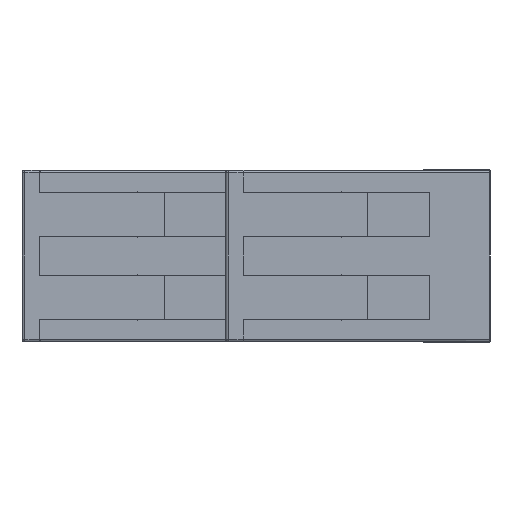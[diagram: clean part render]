
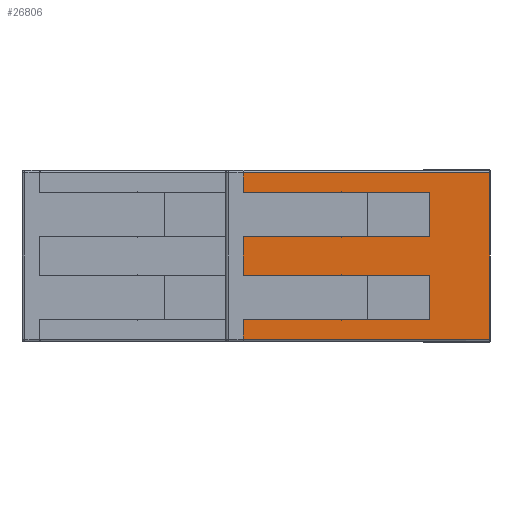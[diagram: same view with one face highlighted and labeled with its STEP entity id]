
A CAD part, left-side view. The second image highlights one B-rep face of the part: STEP entity #26806.
In plain terms, the highlighted planar face has unit normal (-1, 0, 0).
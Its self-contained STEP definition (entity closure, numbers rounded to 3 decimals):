
#58 = DIRECTION ( 'NONE',  ( 0., 0., 1. ) ) ;
#330 = LINE ( 'NONE', #11156, #16790 ) ;
#522 = VERTEX_POINT ( 'NONE', #15512 ) ;
#720 = VERTEX_POINT ( 'NONE', #21715 ) ;
#1124 = LINE ( 'NONE', #3722, #11843 ) ;
#1205 = LINE ( 'NONE', #2655, #12609 ) ;
#1285 = EDGE_CURVE ( 'NONE', #8899, #16350, #14881, .T. ) ;
#1503 = VECTOR ( 'NONE', #18366, 1000. ) ;
#1678 = DIRECTION ( 'NONE',  ( 0., 0., 1. ) ) ;
#1727 = CARTESIAN_POINT ( 'NONE',  ( -38.252, 2.438, 13.608 ) ) ;
#1740 = EDGE_CURVE ( 'NONE', #13068, #22184, #4113, .T. ) ;
#1823 = LINE ( 'NONE', #24999, #24600 ) ;
#1937 = ORIENTED_EDGE ( 'NONE', *, *, #25907, .T. ) ;
#2278 = ORIENTED_EDGE ( 'NONE', *, *, #6004, .F. ) ;
#2299 = EDGE_CURVE ( 'NONE', #10054, #3017, #2742, .T. ) ;
#2655 = CARTESIAN_POINT ( 'NONE',  ( -38.252, -6.462, 4.058 ) ) ;
#2742 = LINE ( 'NONE', #22765, #9760 ) ;
#2903 = EDGE_CURVE ( 'NONE', #19982, #26915, #16485, .T. ) ;
#3017 = VERTEX_POINT ( 'NONE', #10625 ) ;
#3576 = LINE ( 'NONE', #10317, #4247 ) ;
#3638 = EDGE_CURVE ( 'NONE', #3017, #19982, #330, .T. ) ;
#3722 = CARTESIAN_POINT ( 'NONE',  ( -38.252, -14.462, 7.558 ) ) ;
#4113 = LINE ( 'NONE', #18278, #26202 ) ;
#4139 = VECTOR ( 'NONE', #24994, 1000. ) ;
#4247 = VECTOR ( 'NONE', #25190, 1000. ) ;
#4292 = EDGE_LOOP ( 'NONE', ( #9809, #20518, #1937, #8171, #25373, #16211, #27414, #10804, #14295, #21508, #2278, #15323, #6875, #22231, #4405, #19398 ) ) ;
#4405 = ORIENTED_EDGE ( 'NONE', *, *, #2903, .T. ) ;
#4499 = CARTESIAN_POINT ( 'NONE',  ( -38.252, -14.462, 4.058 ) ) ;
#4521 = EDGE_CURVE ( 'NONE', #10054, #10845, #20096, .T. ) ;
#4789 = DIRECTION ( 'NONE',  ( 0., 1., 0. ) ) ;
#5057 = VECTOR ( 'NONE', #10352, 1000. ) ;
#5625 = CARTESIAN_POINT ( 'NONE',  ( -38.252, -19.962, 13.608 ) ) ;
#5757 = CARTESIAN_POINT ( 'NONE',  ( -38.252, 2.438, 13.358 ) ) ;
#5878 = DIRECTION ( 'NONE',  ( 0., 1., 0. ) ) ;
#6004 = EDGE_CURVE ( 'NONE', #10845, #6688, #25631, .T. ) ;
#6294 = CARTESIAN_POINT ( 'NONE',  ( -38.252, 2.438, 4.058 ) ) ;
#6347 = AXIS2_PLACEMENT_3D ( 'NONE', #24789, #24976, #12149 ) ;
#6433 = LINE ( 'NONE', #25480, #10782 ) ;
#6688 = VERTEX_POINT ( 'NONE', #20712 ) ;
#6875 = ORIENTED_EDGE ( 'NONE', *, *, #2299, .T. ) ;
#7818 = DIRECTION ( 'NONE',  ( 0., 1., 0. ) ) ;
#8171 = ORIENTED_EDGE ( 'NONE', *, *, #23350, .F. ) ;
#8353 = CARTESIAN_POINT ( 'NONE',  ( -38.252, 2.438, 13.358 ) ) ;
#8899 = VERTEX_POINT ( 'NONE', #22624 ) ;
#9268 = VERTEX_POINT ( 'NONE', #24555 ) ;
#9400 = CARTESIAN_POINT ( 'NONE',  ( -38.252, -14.462, 4.058 ) ) ;
#9760 = VECTOR ( 'NONE', #9901, 1000. ) ;
#9809 = ORIENTED_EDGE ( 'NONE', *, *, #1285, .F. ) ;
#9897 = VECTOR ( 'NONE', #18077, 1000. ) ;
#9901 = DIRECTION ( 'NONE',  ( 0., 1., 0. ) ) ;
#9993 = PLANE ( 'NONE',  #6347 ) ;
#10011 = VERTEX_POINT ( 'NONE', #5757 ) ;
#10017 = DIRECTION ( 'NONE',  ( 0., 1., 0. ) ) ;
#10054 = VERTEX_POINT ( 'NONE', #18803 ) ;
#10317 = CARTESIAN_POINT ( 'NONE',  ( -38.252, -19.962, -1.742 ) ) ;
#10338 = EDGE_CURVE ( 'NONE', #6688, #22208, #1205, .T. ) ;
#10352 = DIRECTION ( 'NONE',  ( 0., 0., -1. ) ) ;
#10625 = CARTESIAN_POINT ( 'NONE',  ( -38.252, -6.462, 0.058 ) ) ;
#10782 = VECTOR ( 'NONE', #19192, 1000. ) ;
#10804 = ORIENTED_EDGE ( 'NONE', *, *, #1740, .T. ) ;
#10845 = VERTEX_POINT ( 'NONE', #4499 ) ;
#11060 = EDGE_CURVE ( 'NONE', #22184, #22208, #12911, .T. ) ;
#11156 = CARTESIAN_POINT ( 'NONE',  ( -38.252, -6.462, 0.058 ) ) ;
#11843 = VECTOR ( 'NONE', #5878, 1000. ) ;
#11908 = CARTESIAN_POINT ( 'NONE',  ( -38.252, -6.462, 11.558 ) ) ;
#12149 = DIRECTION ( 'NONE',  ( 0., 0., 1. ) ) ;
#12609 = VECTOR ( 'NONE', #17667, 1000. ) ;
#12666 = CARTESIAN_POINT ( 'NONE',  ( -38.252, 2.438, 7.558 ) ) ;
#12911 = LINE ( 'NONE', #16217, #1503 ) ;
#13068 = VERTEX_POINT ( 'NONE', #14185 ) ;
#13442 = FACE_OUTER_BOUND ( 'NONE', #4292, .T. ) ;
#13533 = CARTESIAN_POINT ( 'NONE',  ( -38.252, -19.962, -1.742 ) ) ;
#14185 = CARTESIAN_POINT ( 'NONE',  ( -38.252, -6.462, 7.558 ) ) ;
#14295 = ORIENTED_EDGE ( 'NONE', *, *, #11060, .T. ) ;
#14360 = VECTOR ( 'NONE', #58, 1000. ) ;
#14452 = VECTOR ( 'NONE', #25453, 1000. ) ;
#14881 = LINE ( 'NONE', #5625, #4139 ) ;
#15065 = CARTESIAN_POINT ( 'NONE',  ( -38.252, -14.462, 4.058 ) ) ;
#15323 = ORIENTED_EDGE ( 'NONE', *, *, #4521, .F. ) ;
#15512 = CARTESIAN_POINT ( 'NONE',  ( -38.252, -14.462, 7.558 ) ) ;
#16028 = VERTEX_POINT ( 'NONE', #11908 ) ;
#16126 = DIRECTION ( 'NONE',  ( 0., 1., 0. ) ) ;
#16211 = ORIENTED_EDGE ( 'NONE', *, *, #27528, .F. ) ;
#16217 = CARTESIAN_POINT ( 'NONE',  ( -38.252, 2.438, 13.608 ) ) ;
#16350 = VERTEX_POINT ( 'NONE', #13533 ) ;
#16392 = CARTESIAN_POINT ( 'NONE',  ( -38.252, -14.462, 11.558 ) ) ;
#16485 = LINE ( 'NONE', #1727, #5057 ) ;
#16720 = CARTESIAN_POINT ( 'NONE',  ( -38.252, -14.462, 11.558 ) ) ;
#16790 = VECTOR ( 'NONE', #4789, 1000. ) ;
#17574 = VECTOR ( 'NONE', #7818, 1000. ) ;
#17667 = DIRECTION ( 'NONE',  ( 0., 1., 0. ) ) ;
#18077 = DIRECTION ( 'NONE',  ( 0., 1., 0. ) ) ;
#18278 = CARTESIAN_POINT ( 'NONE',  ( -38.252, -6.462, 7.558 ) ) ;
#18366 = DIRECTION ( 'NONE',  ( 0., 0., -1. ) ) ;
#18803 = CARTESIAN_POINT ( 'NONE',  ( -38.252, -14.462, 0.058 ) ) ;
#19192 = DIRECTION ( 'NONE',  ( 0., 0., -1. ) ) ;
#19384 = CARTESIAN_POINT ( 'NONE',  ( -38.252, 2.438, 0.058 ) ) ;
#19398 = ORIENTED_EDGE ( 'NONE', *, *, #22129, .T. ) ;
#19982 = VERTEX_POINT ( 'NONE', #19384 ) ;
#20096 = LINE ( 'NONE', #15065, #14360 ) ;
#20518 = ORIENTED_EDGE ( 'NONE', *, *, #26459, .T. ) ;
#20712 = CARTESIAN_POINT ( 'NONE',  ( -38.252, -6.462, 4.058 ) ) ;
#21508 = ORIENTED_EDGE ( 'NONE', *, *, #10338, .F. ) ;
#21715 = CARTESIAN_POINT ( 'NONE',  ( -38.252, 2.438, 11.558 ) ) ;
#22129 = EDGE_CURVE ( 'NONE', #26915, #16350, #3576, .T. ) ;
#22184 = VERTEX_POINT ( 'NONE', #12666 ) ;
#22208 = VERTEX_POINT ( 'NONE', #6294 ) ;
#22231 = ORIENTED_EDGE ( 'NONE', *, *, #3638, .T. ) ;
#22542 = VECTOR ( 'NONE', #1678, 1000. ) ;
#22624 = CARTESIAN_POINT ( 'NONE',  ( -38.252, -19.962, 13.358 ) ) ;
#22765 = CARTESIAN_POINT ( 'NONE',  ( -38.252, -14.462, 0.058 ) ) ;
#23226 = LINE ( 'NONE', #16392, #17574 ) ;
#23350 = EDGE_CURVE ( 'NONE', #16028, #720, #1823, .T. ) ;
#23901 = EDGE_CURVE ( 'NONE', #522, #13068, #1124, .T. ) ;
#24346 = EDGE_CURVE ( 'NONE', #9268, #16028, #23226, .T. ) ;
#24555 = CARTESIAN_POINT ( 'NONE',  ( -38.252, -14.462, 11.558 ) ) ;
#24600 = VECTOR ( 'NONE', #10017, 1000. ) ;
#24789 = CARTESIAN_POINT ( 'NONE',  ( -38.252, 2.438, 13.608 ) ) ;
#24976 = DIRECTION ( 'NONE',  ( 1., 0., 0. ) ) ;
#24994 = DIRECTION ( 'NONE',  ( 0., 0., -1. ) ) ;
#24999 = CARTESIAN_POINT ( 'NONE',  ( -38.252, -6.462, 11.558 ) ) ;
#25190 = DIRECTION ( 'NONE',  ( 0., -1., 0. ) ) ;
#25331 = CARTESIAN_POINT ( 'NONE',  ( -38.252, 2.438, -1.742 ) ) ;
#25373 = ORIENTED_EDGE ( 'NONE', *, *, #24346, .F. ) ;
#25453 = DIRECTION ( 'NONE',  ( 0., 1., 0. ) ) ;
#25480 = CARTESIAN_POINT ( 'NONE',  ( -38.252, 2.438, 13.608 ) ) ;
#25631 = LINE ( 'NONE', #9400, #9897 ) ;
#25907 = EDGE_CURVE ( 'NONE', #10011, #720, #6433, .T. ) ;
#26202 = VECTOR ( 'NONE', #16126, 1000. ) ;
#26459 = EDGE_CURVE ( 'NONE', #8899, #10011, #27149, .T. ) ;
#26806 = ADVANCED_FACE ( 'NONE', ( #13442 ), #9993, .F. ) ;
#26915 = VERTEX_POINT ( 'NONE', #25331 ) ;
#27149 = LINE ( 'NONE', #8353, #14452 ) ;
#27414 = ORIENTED_EDGE ( 'NONE', *, *, #23901, .T. ) ;
#27528 = EDGE_CURVE ( 'NONE', #522, #9268, #27532, .T. ) ;
#27532 = LINE ( 'NONE', #16720, #22542 ) ;
